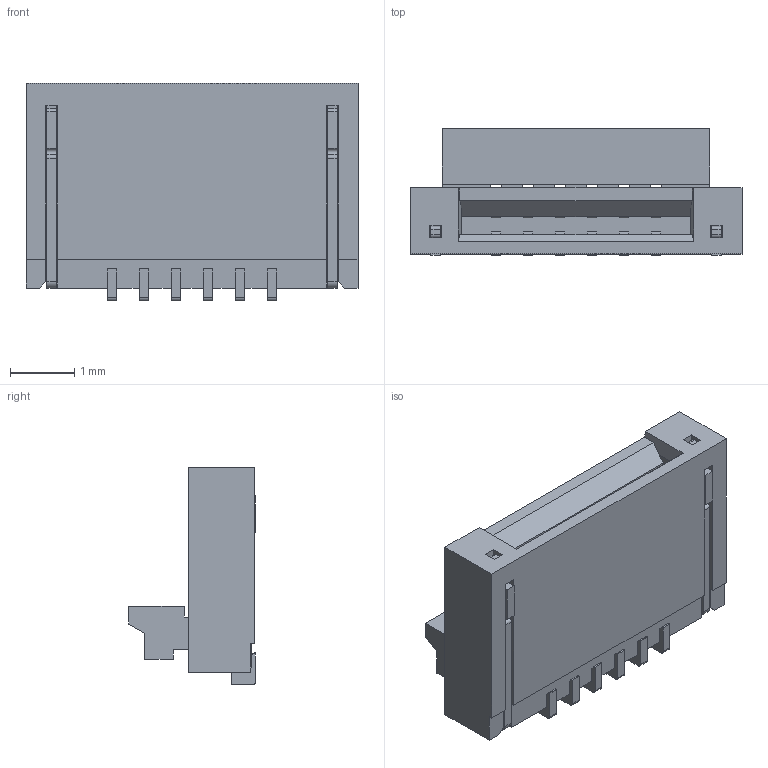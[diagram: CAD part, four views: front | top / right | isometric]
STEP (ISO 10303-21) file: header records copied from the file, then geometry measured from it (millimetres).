
FILE_DESCRIPTION((''),'2;1');
FILE_NAME('PRT0001','2014-04-23T',('d17822'),(''),'PRO/ENGINEER BY PARAMETRIC TECHNOLOGY CORPORATION, 2007450','PRO/ENGINEER BY PARAMETRIC TECHNOLOGY CORPORATION, 2007450','');
FILE_SCHEMA(('CONFIG_CONTROL_DESIGN'));
Length unit declared in the file: millimetre
Products named in the file (1): PRT0001
Bounding box: 5.18 x 1.98 x 3.4 mm (x, y, z)
Volume: 16.2 mm3; surface area: 102.2 mm2
Topology: 2 solids, 2 shells, 378 faces, 1179 edges, 803 vertices
Faces by surface type: plane 276, cylinder 102
Entity records: 13212 total; most frequent: CARTESIAN_POINT 2345, ORIENTED_EDGE 2326, DIRECTION 2209, EDGE_CURVE 1163, VECTOR 907, LINE 907, VERTEX_POINT 787, AXIS2_PLACEMENT_3D 651
